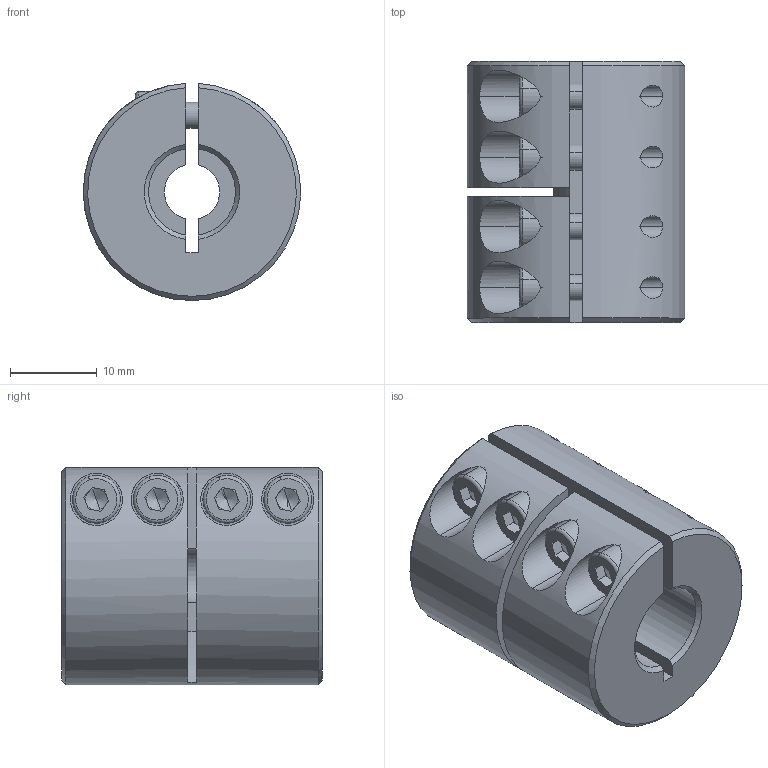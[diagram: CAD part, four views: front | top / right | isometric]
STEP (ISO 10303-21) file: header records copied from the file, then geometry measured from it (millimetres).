
FILE_DESCRIPTION (( 'STEP AP214' ), '1' );
FILE_NAME ('LL-B-D25L30-6.35-10½¨Ä£.STEP', '2022-07-21T03:14:04', ( '' ), ( '' ), 'SwSTEP 2.0', 'SolidWorks 2022', '' );
FILE_SCHEMA (( 'AUTOMOTIVE_DESIGN' ));
Length unit declared in the file: millimetre
Products named in the file (1): LL-B-D25L30-6.35-10膘耀
Bounding box: 24.99 x 30 x 24.98 mm (x, y, z)
Volume: 11957.1 mm3; surface area: 5920.7 mm2
Topology: 1 solids, 1 shells, 164 faces, 418 edges, 264 vertices
Faces by surface type: plane 83, cylinder 58, cone 15, torus 8
Entity records: 5402 total; most frequent: CARTESIAN_POINT 1363, DIRECTION 862, ORIENTED_EDGE 820, EDGE_CURVE 410, AXIS2_PLACEMENT_3D 331, VERTEX_POINT 264, LINE 200, VECTOR 200
